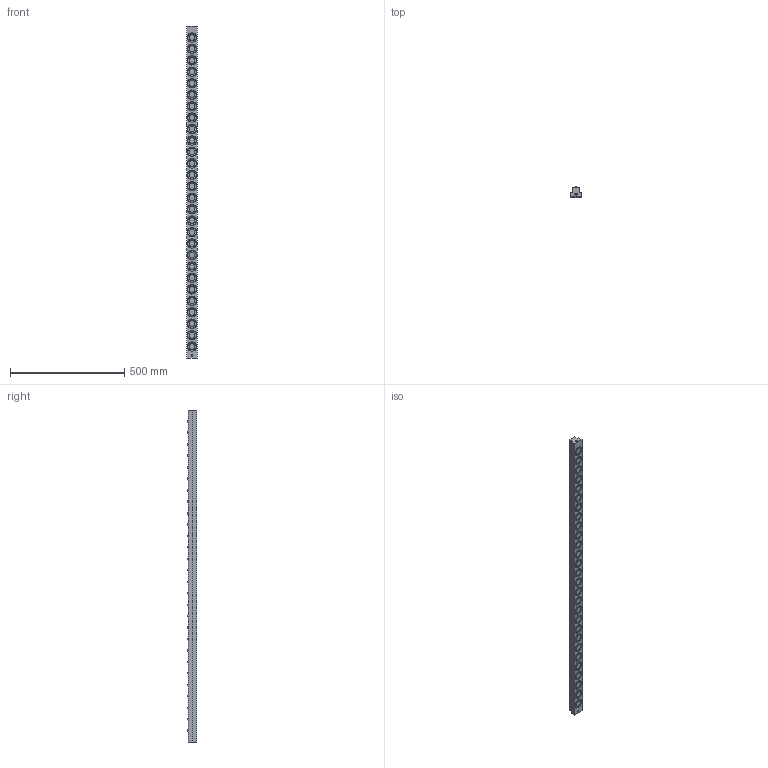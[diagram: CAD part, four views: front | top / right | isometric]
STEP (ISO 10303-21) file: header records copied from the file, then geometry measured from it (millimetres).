
FILE_DESCRIPTION (( 'STEP AP203' ), '1' );
FILE_NAME ('PVL50T-28.STEP', '2016-02-18T05:10:49', ( '' ), ( '' ), 'SwSTEP 2.0', 'SolidWorks 2013', '' );
FILE_SCHEMA (( 'CONFIG_CONTROL_DESIGN' ));
Length unit declared in the file: millimetre
Products named in the file (1): PVL50T-28
Bounding box: 45 x 42 x 1450 mm (x, y, z)
Volume: 1958690.5 mm3; surface area: 287774.9 mm2
Topology: 1 solids, 1 shells, 890 faces, 2096 edges, 1405 vertices
Faces by surface type: cylinder 566, plane 264, sphere 56, cone 4
Entity records: 26379 total; most frequent: DIRECTION 5180, CARTESIAN_POINT 4390, ORIENTED_EDGE 4188, AXIS2_PLACEMENT_3D 2195, EDGE_CURVE 2094, VERTEX_POINT 1405, CIRCLE 1304, EDGE_LOOP 1091
